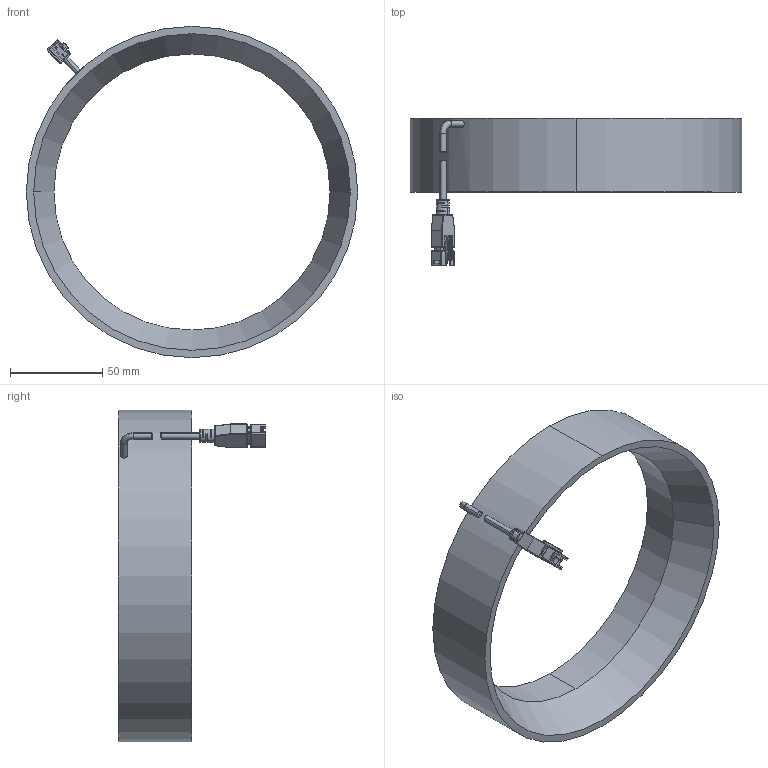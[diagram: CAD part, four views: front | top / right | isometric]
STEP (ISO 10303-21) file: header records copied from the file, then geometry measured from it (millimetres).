
FILE_DESCRIPTION (( 'STEP AP203' ), '1' );
FILE_NAME ('06 LS-LGSH-180-W 光源_3d尺寸图（STP）.STEP', '2019-09-19T09:11:05', ( '' ), ( '' ), 'SwSTEP 2.0', 'SolidWorks 2016', '' );
FILE_SCHEMA (( 'CONFIG_CONTROL_DESIGN' ));
Length unit declared in the file: millimetre
Products named in the file (5): assy; sada; LINE_TOU; BODY_12; 06 LS-LGSH-180-W 光源_3d尺寸图（STP）
Assembly tree (4 placements, depth 3):
  06 LS-LGSH-180-W 光源_3d尺寸图（STP）
    sada
    assy
      LINE_TOU
      BODY_12
Bounding box: 180 x 80.1 x 180 mm (x, y, z)
Volume: 258945.3 mm3; surface area: 56304.6 mm2
Topology: 3 solids, 3 shells, 249 faces, 623 edges, 384 vertices
Faces by surface type: plane 129, cylinder 80, bspline 20, cone 14, torus 6
Entity records: 8278 total; most frequent: CARTESIAN_POINT 1938, ORIENTED_EDGE 1222, DIRECTION 1205, EDGE_CURVE 611, AXIS2_PLACEMENT_3D 407, VECTOR 391, LINE 391, VERTEX_POINT 384
